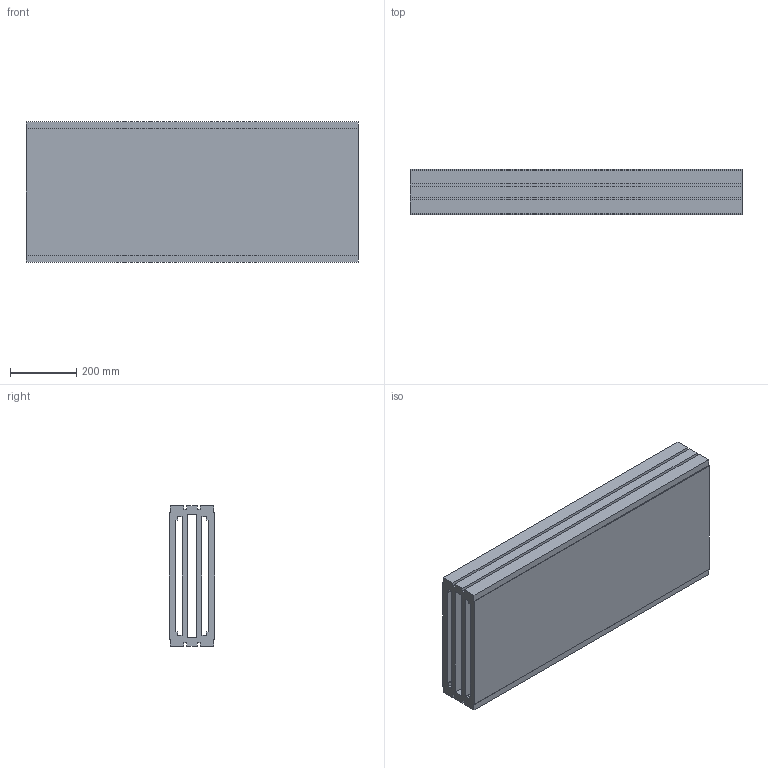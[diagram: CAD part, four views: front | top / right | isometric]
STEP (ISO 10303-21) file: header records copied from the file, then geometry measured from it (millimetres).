
FILE_DESCRIPTION (( 'STEP AP214' ), '1' );
FILE_NAME ('FS-420-MTC-150 02.150L01.420.N Baansectie recht 1000mm.STEP', '2017-12-21T10:08:51', ( '' ), ( '' ), 'SwSTEP 2.0', 'SolidWorks 2017', '' );
FILE_SCHEMA (( 'AUTOMOTIVE_DESIGN' ));
Length unit declared in the file: millimetre
Products named in the file (1): FS-420-MTC-150 02.150L01.420.N Baansectie recht 1000mm
Bounding box: 1000 x 136 x 423 mm (x, y, z)
Volume: 33204520 mm3; surface area: 3578409 mm2
Topology: 1 solids, 1 shells, 50 faces, 144 edges, 96 vertices
Faces by surface type: plane 50
Entity records: 1654 total; most frequent: CARTESIAN_POINT 291, ORIENTED_EDGE 288, DIRECTION 246, VECTOR 144, LINE 144, EDGE_CURVE 144, VERTEX_POINT 96, EDGE_LOOP 56
